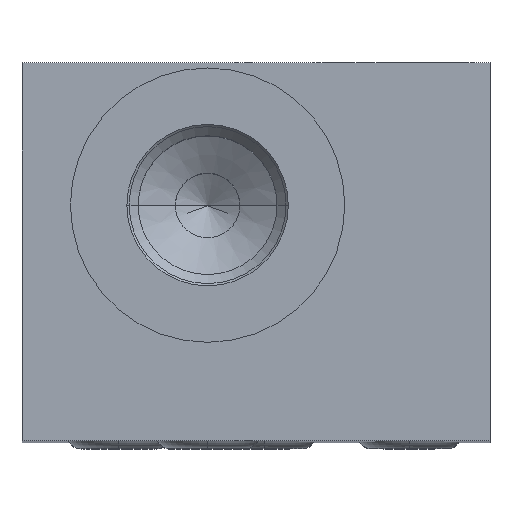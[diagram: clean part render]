
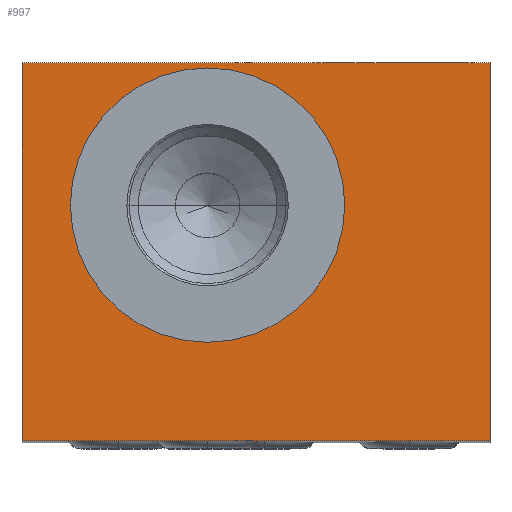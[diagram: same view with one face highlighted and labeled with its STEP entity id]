
A CAD part, top view. The second image highlights one B-rep face of the part: STEP entity #997.
In plain terms, the highlighted planar face has unit normal (0, 0, 1).
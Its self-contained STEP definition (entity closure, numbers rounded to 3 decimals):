
#154=DIRECTION('',(0.,-1.,0.));
#155=VECTOR('',#154,23.419);
#156=CARTESIAN_POINT('',(-14.5,11.71,38.));
#157=LINE('',#156,#155);
#158=DIRECTION('',(-1.,0.,0.));
#159=VECTOR('',#158,29.);
#160=CARTESIAN_POINT('',(14.5,11.71,38.));
#161=LINE('',#160,#159);
#162=DIRECTION('',(0.,1.,0.));
#163=VECTOR('',#162,23.419);
#164=CARTESIAN_POINT('',(14.5,-11.71,38.));
#165=LINE('',#164,#163);
#166=DIRECTION('',(1.,0.,0.));
#167=VECTOR('',#166,29.);
#168=CARTESIAN_POINT('',(-14.5,-11.71,38.));
#169=LINE('',#168,#167);
#170=CARTESIAN_POINT('',(-3.,2.891,38.));
#171=DIRECTION('',(0.,0.,1.));
#172=DIRECTION('',(-1.,0.,0.));
#173=AXIS2_PLACEMENT_3D('',#170,#171,#172);
#175=CARTESIAN_POINT('',(-3.,2.891,38.));
#176=DIRECTION('',(0.,0.,1.));
#177=DIRECTION('',(1.,0.,0.));
#178=AXIS2_PLACEMENT_3D('',#175,#176,#177);
#624=CARTESIAN_POINT('',(-14.5,11.71,38.));
#625=CARTESIAN_POINT('',(-14.5,-11.71,38.));
#626=VERTEX_POINT('',#624);
#627=VERTEX_POINT('',#625);
#628=CARTESIAN_POINT('',(14.5,-11.71,38.));
#629=VERTEX_POINT('',#628);
#630=CARTESIAN_POINT('',(14.5,11.71,38.));
#631=VERTEX_POINT('',#630);
#658=CARTESIAN_POINT('',(-11.5,2.891,38.));
#659=CARTESIAN_POINT('',(5.5,2.891,38.));
#660=VERTEX_POINT('',#658);
#661=VERTEX_POINT('',#659);
#979=CARTESIAN_POINT('',(0.,0.,38.));
#980=DIRECTION('',(0.,0.,1.));
#981=DIRECTION('',(1.,0.,0.));
#982=AXIS2_PLACEMENT_3D('',#979,#980,#981);
#983=PLANE('',#982);
#984=ORIENTED_EDGE('',*,*,#810,.F.);
#985=ORIENTED_EDGE('',*,*,#825,.F.);
#987=ORIENTED_EDGE('',*,*,#986,.F.);
#988=ORIENTED_EDGE('',*,*,#943,.F.);
#989=EDGE_LOOP('',(#984,#985,#987,#988));
#990=FACE_OUTER_BOUND('',#989,.F.);
#992=ORIENTED_EDGE('',*,*,#991,.T.);
#994=ORIENTED_EDGE('',*,*,#993,.T.);
#995=EDGE_LOOP('',(#992,#994));
#996=FACE_BOUND('',#995,.F.);
#997=ADVANCED_FACE('',(#990,#996),#983,.T.);
#174=CIRCLE('',#173,8.5);
#179=CIRCLE('',#178,8.5);
#810=EDGE_CURVE('',#626,#627,#157,.T.);
#825=EDGE_CURVE('',#631,#626,#161,.T.);
#943=EDGE_CURVE('',#627,#629,#169,.T.);
#986=EDGE_CURVE('',#629,#631,#165,.T.);
#991=EDGE_CURVE('',#660,#661,#174,.T.);
#993=EDGE_CURVE('',#661,#660,#179,.T.);
